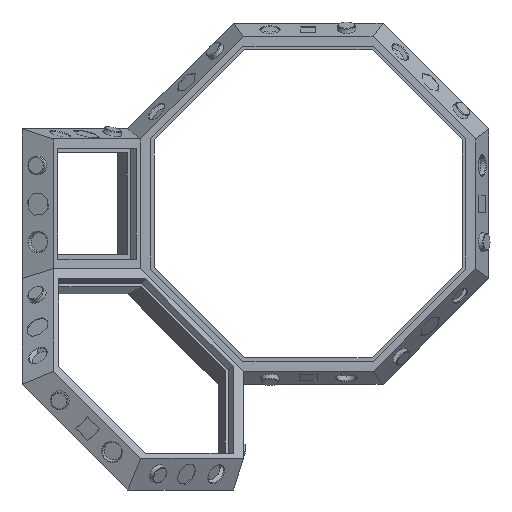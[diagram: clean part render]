
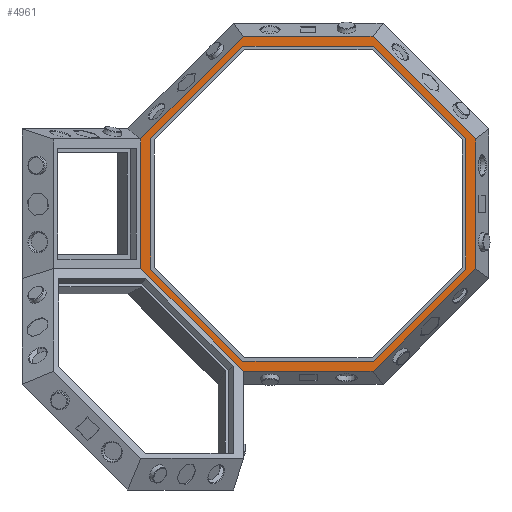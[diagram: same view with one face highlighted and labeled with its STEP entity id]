
A CAD part, left-side view. The second image highlights one B-rep face of the part: STEP entity #4961.
In plain terms, the highlighted planar face has unit normal (-1, 0, 0).
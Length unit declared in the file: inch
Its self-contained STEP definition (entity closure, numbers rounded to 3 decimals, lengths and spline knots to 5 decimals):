
#260=FACE_BOUND('',#916,.T.);
#557=FACE_OUTER_BOUND('',#915,.T.);
#915=EDGE_LOOP('',(#4409,#4410,#4411,#4412,#4413,#4414,#4415,#4416));
#916=EDGE_LOOP('',(#4417,#4418,#4419,#4420,#4421,#4422,#4423,#4424));
#1251=LINE('',#7580,#1805);
#1277=LINE('',#7647,#1831);
#1298=LINE('',#7711,#1852);
#1323=LINE('',#7776,#1877);
#1342=LINE('',#7829,#1896);
#1367=LINE('',#7894,#1921);
#1386=LINE('',#7947,#1940);
#1411=LINE('',#8011,#1965);
#1425=LINE('',#8042,#1979);
#1429=LINE('',#8050,#1983);
#1432=LINE('',#8056,#1986);
#1435=LINE('',#8062,#1989);
#1438=LINE('',#8068,#1992);
#1441=LINE('',#8074,#1995);
#1444=LINE('',#8080,#1998);
#1447=LINE('',#8085,#2001);
#1805=VECTOR('',#6198,0.3937);
#1831=VECTOR('',#6264,0.3937);
#1852=VECTOR('',#6333,0.3937);
#1877=VECTOR('',#6398,0.3937);
#1896=VECTOR('',#6453,0.3937);
#1921=VECTOR('',#6518,0.3937);
#1940=VECTOR('',#6573,0.3937);
#1965=VECTOR('',#6638,0.3937);
#1979=VECTOR('',#6666,0.3937);
#1983=VECTOR('',#6672,0.3937);
#1986=VECTOR('',#6677,0.3937);
#1989=VECTOR('',#6682,0.3937);
#1992=VECTOR('',#6687,0.3937);
#1995=VECTOR('',#6692,0.3937);
#1998=VECTOR('',#6697,0.3937);
#2001=VECTOR('',#6702,0.3937);
#2282=VERTEX_POINT('',#7578);
#2283=VERTEX_POINT('',#7579);
#2304=VERTEX_POINT('',#7646);
#2323=VERTEX_POINT('',#7710);
#2343=VERTEX_POINT('',#7775);
#2359=VERTEX_POINT('',#7828);
#2379=VERTEX_POINT('',#7893);
#2395=VERTEX_POINT('',#7946);
#2423=VERTEX_POINT('',#8040);
#2424=VERTEX_POINT('',#8041);
#2427=VERTEX_POINT('',#8049);
#2429=VERTEX_POINT('',#8055);
#2431=VERTEX_POINT('',#8061);
#2433=VERTEX_POINT('',#8067);
#2435=VERTEX_POINT('',#8073);
#2437=VERTEX_POINT('',#8079);
#2850=EDGE_CURVE('',#2282,#2283,#1251,.T.);
#2882=EDGE_CURVE('',#2283,#2304,#1277,.T.);
#2912=EDGE_CURVE('',#2304,#2323,#1298,.T.);
#2943=EDGE_CURVE('',#2323,#2343,#1323,.T.);
#2968=EDGE_CURVE('',#2343,#2359,#1342,.T.);
#2999=EDGE_CURVE('',#2359,#2379,#1367,.T.);
#3024=EDGE_CURVE('',#2379,#2395,#1386,.T.);
#3055=EDGE_CURVE('',#2395,#2282,#1411,.T.);
#3069=EDGE_CURVE('',#2423,#2424,#1425,.T.);
#3073=EDGE_CURVE('',#2427,#2423,#1429,.T.);
#3076=EDGE_CURVE('',#2429,#2427,#1432,.T.);
#3079=EDGE_CURVE('',#2431,#2429,#1435,.T.);
#3082=EDGE_CURVE('',#2433,#2431,#1438,.T.);
#3085=EDGE_CURVE('',#2435,#2433,#1441,.T.);
#3088=EDGE_CURVE('',#2437,#2435,#1444,.T.);
#3091=EDGE_CURVE('',#2424,#2437,#1447,.T.);
#4409=ORIENTED_EDGE('',*,*,#2850,.F.);
#4410=ORIENTED_EDGE('',*,*,#3055,.F.);
#4411=ORIENTED_EDGE('',*,*,#3024,.F.);
#4412=ORIENTED_EDGE('',*,*,#2999,.F.);
#4413=ORIENTED_EDGE('',*,*,#2968,.F.);
#4414=ORIENTED_EDGE('',*,*,#2943,.F.);
#4415=ORIENTED_EDGE('',*,*,#2912,.F.);
#4416=ORIENTED_EDGE('',*,*,#2882,.F.);
#4417=ORIENTED_EDGE('',*,*,#3069,.T.);
#4418=ORIENTED_EDGE('',*,*,#3091,.T.);
#4419=ORIENTED_EDGE('',*,*,#3088,.T.);
#4420=ORIENTED_EDGE('',*,*,#3085,.T.);
#4421=ORIENTED_EDGE('',*,*,#3082,.T.);
#4422=ORIENTED_EDGE('',*,*,#3079,.T.);
#4423=ORIENTED_EDGE('',*,*,#3076,.T.);
#4424=ORIENTED_EDGE('',*,*,#3073,.T.);
#4664=PLANE('',#5382);
#4961=ADVANCED_FACE('',(#557,#260),#4664,.F.);
#5382=AXIS2_PLACEMENT_3D('',#8136,#6746,#6747);
#6198=DIRECTION('',(0.,-0.707,0.707));
#6264=DIRECTION('',(0.,-1.,0.));
#6333=DIRECTION('',(0.,-0.707,-0.707));
#6398=DIRECTION('',(0.,0.,-1.));
#6453=DIRECTION('',(0.,0.707,-0.707));
#6518=DIRECTION('',(0.,1.,0.));
#6573=DIRECTION('',(0.,0.707,0.707));
#6638=DIRECTION('',(0.,0.,1.));
#6666=DIRECTION('',(0.,0.707,-0.707));
#6672=DIRECTION('',(0.,0.,-1.));
#6677=DIRECTION('',(0.,-0.707,-0.707));
#6682=DIRECTION('',(0.,-1.,0.));
#6687=DIRECTION('',(0.,-0.707,0.707));
#6692=DIRECTION('',(0.,0.,1.));
#6697=DIRECTION('',(0.,0.707,0.707));
#6702=DIRECTION('',(0.,1.,0.));
#6746=DIRECTION('center_axis',(1.,0.,0.));
#6747=DIRECTION('ref_axis',(0.,0.,-1.));
#7578=CARTESIAN_POINT('',(4.04268,2.65752,1.02765));
#7579=CARTESIAN_POINT('',(4.04268,1.02765,2.65752));
#7580=CARTESIAN_POINT('',(4.04268,1.62759,2.05757));
#7646=CARTESIAN_POINT('',(4.04268,-1.02765,2.65752));
#7647=CARTESIAN_POINT('',(4.04268,-0.41951,2.65752));
#7710=CARTESIAN_POINT('',(4.04268,-2.65752,1.02765));
#7711=CARTESIAN_POINT('',(4.04268,-2.25687,1.4283));
#7775=CARTESIAN_POINT('',(4.04268,-2.65752,-1.02765));
#7776=CARTESIAN_POINT('',(4.04268,-2.65752,-0.40905));
#7828=CARTESIAN_POINT('',(4.04268,-1.02765,-2.65752));
#7829=CARTESIAN_POINT('',(4.04268,-1.65679,-2.02838));
#7893=CARTESIAN_POINT('',(4.04268,1.02765,-2.65752));
#7894=CARTESIAN_POINT('',(4.04268,0.,-2.65752));
#7946=CARTESIAN_POINT('',(4.04268,2.65752,-1.02765));
#7947=CARTESIAN_POINT('',(4.04268,1.84258,-1.84258));
#8011=CARTESIAN_POINT('',(4.04268,2.65752,0.01046));
#8040=CARTESIAN_POINT('',(4.04268,-2.50217,-1.03643));
#8041=CARTESIAN_POINT('',(4.04268,-1.03643,-2.50217));
#8042=CARTESIAN_POINT('',(4.04268,-2.13573,-1.40286));
#8049=CARTESIAN_POINT('',(4.04268,-2.50217,1.03643));
#8050=CARTESIAN_POINT('',(4.04268,-2.50217,0.51822));
#8055=CARTESIAN_POINT('',(4.04268,-1.03643,2.50217));
#8056=CARTESIAN_POINT('',(4.04268,-1.40286,2.13573));
#8061=CARTESIAN_POINT('',(4.04268,1.03643,2.50217));
#8062=CARTESIAN_POINT('',(4.04268,0.51822,2.50217));
#8067=CARTESIAN_POINT('',(4.04268,2.50217,1.03643));
#8068=CARTESIAN_POINT('',(4.04268,2.13573,1.40286));
#8073=CARTESIAN_POINT('',(4.04268,2.50217,-1.03643));
#8074=CARTESIAN_POINT('',(4.04268,2.50217,-0.51822));
#8079=CARTESIAN_POINT('',(4.04268,1.03643,-2.50217));
#8080=CARTESIAN_POINT('',(4.04268,1.40286,-2.13573));
#8085=CARTESIAN_POINT('',(4.04268,-0.51822,-2.50217));
#8136=CARTESIAN_POINT('Origin',(4.04268,0.,0.));
